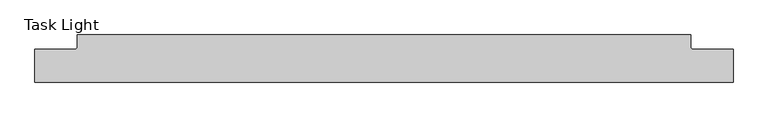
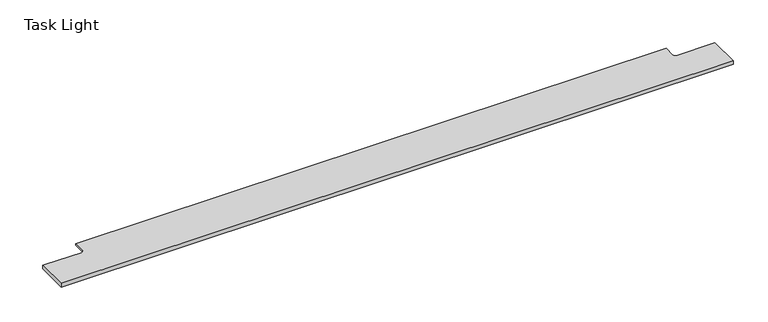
"""IFC4 building model written with IfcOpenShell, lengths in millimetres: light fixture geometry, Lighting-Horizontal-Teknion-Altos_Landscape-R2015 : Task Light."""

from ifc_helpers import new_model, si_unit, frame, origin, place, context, project, spatial, polyline, circle_curve, source, transform, mapped, element, save
from ifc_brep_helpers import plane_surface, revolved_surface, advanced_brep


def task_light_f32377d4(model_context):
    return source(origin(), model_context, "Body", "AdvancedBrep", [
        advanced_brep(
        [(-943.61, 29.2199219, -2.5146), (-943.61, 29.2199219, 2.4854), (-937.26, 35.5699219, 2.4854), (-937.26, 35.5699219, -2.5146), (-937.26, 73.2394219, 2.4854), (-937.26, 73.2394219, -2.5146), (937.26, 35.5699219, 2.4854), (937.26, 35.5699219, -2.5146), (937.26, 73.2394219, -2.5146), (937.26, 73.2394219, 2.4854), (943.61, 29.2199219, 2.4854), (943.61, 29.2199219, -2.5146), (-1066.8, -70.7605781, -9.5146), (-1066.8, -70.7605781, 2.4854), (-1066.8, 29.2199219, 2.4854), (-1066.8, 29.2199219, -9.5146), (1066.8, -70.7605781, 2.4854), (1066.8, -70.7605781, -9.5146), (1066.8, 29.2199219, -9.5146), (1066.8, 29.2199219, 2.4854), (-1057.275, -70.7605781, 2.4854), (1057.275, -70.7605781, 2.4854), (1057.275, 29.2199219, 2.4854), (-1057.275, 29.2199219, 2.4854), (-1057.275, -44.1493944, -9.5146), (-1057.275, -64.6562804, -9.5146), (1057.275, -64.6562804, -9.5146), (1057.275, -44.1493944, -9.5146), (-1057.275, -46.719563, 0.0773999), (1057.275, -46.719563, 0.0773999), (1057.275, -62.0861118, 0.0773999), (-1057.275, -62.0861118, 0.0773999)],
        [
            (0, 1),
            (1, 2, circle_curve(frame((-943.61, 35.5699219, 2.4854), z_axis=(0.0, 0.0, 1.0), x_axis=(1.0, 0.0, 0.0)), 6.35)),
            (2, 3),
            (3, 0, circle_curve(frame((-943.61, 35.5699219, -2.5146), z_axis=(0.0, 0.0, -1.0), x_axis=(1.0, 0.0, 0.0)), 6.35)),
            (2, 4),
            (4, 5),
            (5, 3),
            (6, 7),
            (7, 8),
            (8, 9),
            (9, 6),
            (10, 11),
            (11, 7, circle_curve(frame((943.61, 35.5699219, -2.5146), z_axis=(0.0, 0.0, -1.0), x_axis=(1.0, 0.0, 0.0)), 6.35)),
            (6, 10, circle_curve(frame((943.61, 35.5699219, 2.4854), z_axis=(0.0, 0.0, 1.0), x_axis=(1.0, 0.0, 0.0)), 6.35)),
            (12, 13),
            (13, 14),
            (14, 15),
            (15, 12),
            (16, 17),
            (17, 18),
            (18, 19),
            (19, 16),
            (13, 20),
            (20, 21),
            (21, 16),
            (19, 22),
            (22, 10),
            (9, 4),
            (1, 23),
            (23, 14),
            (8, 5),
            (11, 0),
            (18, 15),
            (17, 12),
            (24, 25),
            (25, 26),
            (26, 27),
            (27, 24),
            (28, 29),
            (29, 30),
            (30, 31),
            (31, 28),
            (30, 26),
            (25, 31),
            (29, 27),
            (24, 28),
        ],
        [
            revolved_surface(polyline([(-937.26, 35.5699219, 2.4854000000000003), (-937.26, 35.5699219, -2.5145999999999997)]), (-943.61, 35.5699219, 8.9101779), (0.0, 0.0, 1.0)),
            plane_surface(frame((-937.26, 35.5699219, 8.9101779), z_axis=(-1.0, 0.0, 0.0), x_axis=(0.0, 0.0, -1.0))),
            plane_surface(frame((937.26, 86.3699219, 8.9101779), z_axis=(1.0, 0.0, 0.0), x_axis=(0.0, 0.0, -1.0))),
            revolved_surface(polyline([(949.96, 35.5699219, 2.4854000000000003), (949.96, 35.5699219, -2.5145999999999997)]), (943.61, 35.5699219, 8.9101779), (0.0, 0.0, 1.0)),
            plane_surface(frame((-1066.8, 29.2199219, 0.0), z_axis=(-1.0, 0.0, 0.0), x_axis=(0.0, 0.0, 1.0))),
            plane_surface(frame((1066.8, 29.2199219, 0.0), z_axis=(1.0, 0.0, 0.0), x_axis=(0.0, 0.0, 1.0))),
            plane_surface(frame((-1066.8, -70.7605781, 2.4854), z_axis=(0.0, 0.0, 1.0), x_axis=(1.0, 0.0, 0.0))),
            plane_surface(frame((-1066.8, 73.2394219, 2.4854), z_axis=(0.0, 1.0, 0.0), x_axis=(1.0, 0.0, 0.0))),
            plane_surface(frame((-1066.8, 73.2394219, -2.5146), z_axis=(0.0, 0.0, -1.0), x_axis=(1.0, 0.0, 0.0))),
            plane_surface(frame((-1066.8, 29.2199219, -2.5146), z_axis=(0.0, 1.0, 0.0), x_axis=(1.0, 0.0, 0.0))),
            plane_surface(frame((-1066.8, 29.2199219, -9.5146), z_axis=(0.0, 0.0, -1.0), x_axis=(1.0, 0.0, 0.0))),
            plane_surface(frame((-1066.8, -46.719563, 0.0773999), z_axis=(0.0, 0.0, -1.0), x_axis=(1.0, 0.0, 0.0))),
            plane_surface(frame((-1066.8, -62.0861118, 0.0773999), z_axis=(0.0, 0.9659258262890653, -0.25881904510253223), x_axis=(1.0, 0.0, 0.0))),
            plane_surface(frame((-1066.8, -70.7605781, -9.5146), z_axis=(0.0, -1.0, 0.0), x_axis=(1.0, 0.0, 0.0))),
            plane_surface(frame((1057.275, -70.7605781, -9.5146), z_axis=(-1.0, 0.0, 0.0), x_axis=(0.0, 0.0, 1.0))),
            plane_surface(frame((-1057.275, 29.2199219, -9.5146), z_axis=(1.0, 0.0, 0.0), x_axis=(0.0, 0.0, 1.0))),
            plane_surface(frame((-1066.8, -44.1493944, -9.5146), z_axis=(0.0, -0.9659258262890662, -0.2588190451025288), x_axis=(1.0, 0.0, 0.0))),
        ],
        [
            (0, [[1, 2, 3, 4]]),
            (1, [[-3, 5, 6, 7]]),
            (2, [[8, 9, 10, 11]]),
            (3, [[12, 13, -8, 14]]),
            (4, [[15, 16, 17, 18]]),
            (5, [[19, 20, 21, 22]]),
            (6, [[-16, 23, 24, 25, -22, 26, 27, -14, -11, 28, -5, -2, 29, 30]]),
            (7, [[-28, -10, 31, -6]]),
            (8, [[-31, -9, -13, 32, -4, -7]]),
            (9, [[-32, -12, -27, -26, -21, 33, -17, -30, -29, -1]]),
            (10, [[-18, -33, -20, 34], [35, 36, 37, 38]]),
            (11, [[39, 40, 41, 42]]),
            (12, [[-41, 43, -36, 44]]),
            (13, [[-15, -34, -19, -25, -24, -23]]),
            (14, [[-37, -43, -40, 45]]),
            (15, [[-35, 46, -42, -44]]),
            (16, [[-39, -46, -38, -45]]),
        ],
    ),
    ])


if __name__ == "__main__":
    model = new_model("IFC4")
    model_context = context("Model", 3, world=origin())
    ifc_project = project(units=[si_unit("LENGTHUNIT", "METRE", prefix="MILLI")], contexts=[model_context])
    site = spatial("IfcSite", under=ifc_project)
    building = spatial("IfcBuilding", under=site)
    placement = place(None, origin())
    task_light_shape = task_light_f32377d4(model_context)
    element("IfcLightFixture", 1, ObjectType="Lighting-Horizontal-Teknion-Altos_Landscape-R2015 : Task Light", at=placement, inside=building, context=model_context, shape_type="MappedRepresentation", body=[
        mapped(task_light_shape, transform((0.0, 0.0, 0.0), x_axis=(1.0, 0.0, 0.0), y_axis=(0.0, 1.0, 0.0), z_axis=(0.0, 0.0, 1.0))),
    ])
    save(model, "model.ifc")
